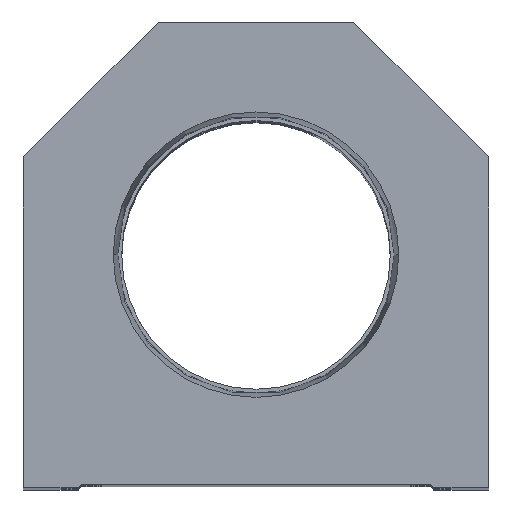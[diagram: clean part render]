
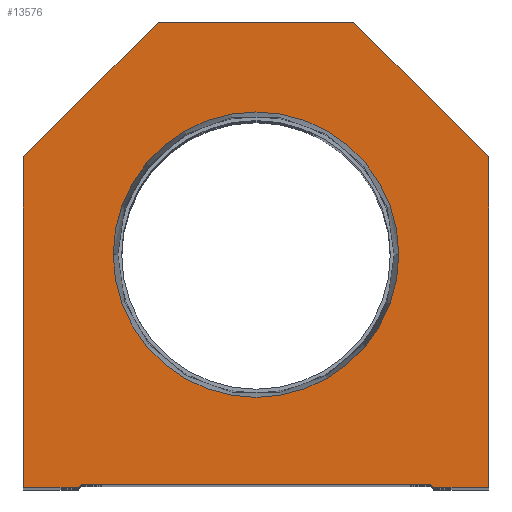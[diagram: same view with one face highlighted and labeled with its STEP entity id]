
A CAD part, top view. The second image highlights one B-rep face of the part: STEP entity #13576.
In plain terms, the highlighted planar face has unit normal (0, 0, 1).
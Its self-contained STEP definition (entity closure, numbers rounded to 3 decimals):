
#107 = VERTEX_POINT ( 'NONE', #14937 ) ;
#135 = CARTESIAN_POINT ( 'NONE',  ( 16., 76.2, 0. ) ) ;
#332 = ORIENTED_EDGE ( 'NONE', *, *, #12423, .T. ) ;
#455 = ORIENTED_EDGE ( 'NONE', *, *, #15391, .T. ) ;
#509 = EDGE_CURVE ( 'NONE', #12624, #107, #3322, .T. ) ;
#614 = ORIENTED_EDGE ( 'NONE', *, *, #2855, .T. ) ;
#625 = AXIS2_PLACEMENT_3D ( 'NONE', #11819, #5143, #6617 ) ;
#759 = ORIENTED_EDGE ( 'NONE', *, *, #15924, .F. ) ;
#1174 = CARTESIAN_POINT ( 'NONE',  ( 14.55, 14.55, 0. ) ) ;
#1328 = LINE ( 'NONE', #12826, #1855 ) ;
#1758 = VECTOR ( 'NONE', #3986, 1000. ) ;
#1797 = VERTEX_POINT ( 'NONE', #3486 ) ;
#1855 = VECTOR ( 'NONE', #3117, 1000. ) ;
#2054 = CARTESIAN_POINT ( 'NONE',  ( 16., 76.2, 0. ) ) ;
#2270 = DIRECTION ( 'NONE',  ( 0., 0., 1. ) ) ;
#2345 = VERTEX_POINT ( 'NONE', #5179 ) ;
#2855 = EDGE_CURVE ( 'NONE', #2345, #13954, #20015, .T. ) ;
#3058 = CIRCLE ( 'NONE', #8430, 23.374 ) ;
#3063 = CARTESIAN_POINT ( 'NONE',  ( 29.1, 0., 0. ) ) ;
#3117 = DIRECTION ( 'NONE',  ( 1., 0., 0. ) ) ;
#3322 = CIRCLE ( 'NONE', #625, 23.374 ) ;
#3486 = CARTESIAN_POINT ( 'NONE',  ( -28.6, 0.5, 0. ) ) ;
#3718 = LINE ( 'NONE', #16904, #9315 ) ;
#3721 = ORIENTED_EDGE ( 'NONE', *, *, #509, .F. ) ;
#3792 = CARTESIAN_POINT ( 'NONE',  ( -38.1, 54.1, 0. ) ) ;
#3804 = ORIENTED_EDGE ( 'NONE', *, *, #18390, .T. ) ;
#3883 = CARTESIAN_POINT ( 'NONE',  ( 38.1, 54.1, 0. ) ) ;
#3957 = FACE_OUTER_BOUND ( 'NONE', #15301, .T. ) ;
#3986 = DIRECTION ( 'NONE',  ( -0.707, -0.707, 0. ) ) ;
#4049 = CARTESIAN_POINT ( 'NONE',  ( -28.6, 0., 0. ) ) ;
#4568 = EDGE_CURVE ( 'NONE', #13226, #7840, #10946, .T. ) ;
#4696 = CARTESIAN_POINT ( 'NONE',  ( 38.1, 54.1, 0. ) ) ;
#5060 = EDGE_CURVE ( 'NONE', #7465, #2345, #13594, .T. ) ;
#5143 = DIRECTION ( 'NONE',  ( 0., 0., 1. ) ) ;
#5165 = DIRECTION ( 'NONE',  ( 0.707, 0.707, 0. ) ) ;
#5179 = CARTESIAN_POINT ( 'NONE',  ( -38.1, 54.1, 0. ) ) ;
#5237 = ORIENTED_EDGE ( 'NONE', *, *, #12833, .T. ) ;
#5372 = CARTESIAN_POINT ( 'NONE',  ( -28.6, 0.5, 0. ) ) ;
#5794 = CARTESIAN_POINT ( 'NONE',  ( 28.6, 0.5, 0. ) ) ;
#5951 = VECTOR ( 'NONE', #12050, 1000. ) ;
#6386 = CARTESIAN_POINT ( 'NONE',  ( 38.1, 0., 0. ) ) ;
#6464 = CARTESIAN_POINT ( 'NONE',  ( -16., 76.2, 0. ) ) ;
#6617 = DIRECTION ( 'NONE',  ( 1., 0., 0. ) ) ;
#7174 = ORIENTED_EDGE ( 'NONE', *, *, #20609, .T. ) ;
#7465 = VERTEX_POINT ( 'NONE', #6464 ) ;
#7840 = VERTEX_POINT ( 'NONE', #135 ) ;
#8430 = AXIS2_PLACEMENT_3D ( 'NONE', #20778, #9465, #19161 ) ;
#8685 = CARTESIAN_POINT ( 'NONE',  ( 38.1, 0., 0. ) ) ;
#8732 = AXIS2_PLACEMENT_3D ( 'NONE', #10391, #2270, #10083 ) ;
#8802 = FACE_BOUND ( 'NONE', #16476, .T. ) ;
#8997 = DIRECTION ( 'NONE',  ( 1., 0., 0. ) ) ;
#9312 = LINE ( 'NONE', #4049, #11737 ) ;
#9315 = VECTOR ( 'NONE', #5165, 1000. ) ;
#9465 = DIRECTION ( 'NONE',  ( 0., 0., 1. ) ) ;
#9941 = CARTESIAN_POINT ( 'NONE',  ( -38.1, 0., 0. ) ) ;
#10054 = VECTOR ( 'NONE', #17836, 1000. ) ;
#10083 = DIRECTION ( 'NONE',  ( 1., 0., 0. ) ) ;
#10257 = LINE ( 'NONE', #5372, #5951 ) ;
#10391 = CARTESIAN_POINT ( 'NONE',  ( 0., 0., 0. ) ) ;
#10510 = VECTOR ( 'NONE', #16397, 1000. ) ;
#10662 = VERTEX_POINT ( 'NONE', #15219 ) ;
#10946 = LINE ( 'NONE', #4696, #10510 ) ;
#11511 = EDGE_CURVE ( 'NONE', #14703, #18819, #15633, .T. ) ;
#11737 = VECTOR ( 'NONE', #8997, 1000. ) ;
#11819 = CARTESIAN_POINT ( 'NONE',  ( 0., 38.1, 0. ) ) ;
#12050 = DIRECTION ( 'NONE',  ( 1., 0., 0. ) ) ;
#12070 = LINE ( 'NONE', #8685, #20019 ) ;
#12423 = EDGE_CURVE ( 'NONE', #1797, #14703, #10257, .T. ) ;
#12624 = VERTEX_POINT ( 'NONE', #19806 ) ;
#12826 = CARTESIAN_POINT ( 'NONE',  ( 28.6, 0., 0. ) ) ;
#12833 = EDGE_CURVE ( 'NONE', #13954, #10662, #9312, .T. ) ;
#13019 = VERTEX_POINT ( 'NONE', #6386 ) ;
#13226 = VERTEX_POINT ( 'NONE', #3883 ) ;
#13490 = VECTOR ( 'NONE', #16822, 1000. ) ;
#13576 = ADVANCED_FACE ( 'NONE', ( #8802, #3957 ), #19678, .T. ) ;
#13594 = LINE ( 'NONE', #3792, #1758 ) ;
#13954 = VERTEX_POINT ( 'NONE', #9941 ) ;
#14353 = ORIENTED_EDGE ( 'NONE', *, *, #5060, .T. ) ;
#14703 = VERTEX_POINT ( 'NONE', #5794 ) ;
#14937 = CARTESIAN_POINT ( 'NONE',  ( -23.374, 38.1, 0. ) ) ;
#15219 = CARTESIAN_POINT ( 'NONE',  ( -29.1, 0., 0. ) ) ;
#15301 = EDGE_LOOP ( 'NONE', ( #5237, #7174, #332, #18907, #17895, #3804, #18381, #455, #14353, #614 ) ) ;
#15391 = EDGE_CURVE ( 'NONE', #7840, #7465, #16512, .T. ) ;
#15633 = LINE ( 'NONE', #1174, #10054 ) ;
#15924 = EDGE_CURVE ( 'NONE', #107, #12624, #3058, .T. ) ;
#16397 = DIRECTION ( 'NONE',  ( -0.707, 0.707, 0. ) ) ;
#16476 = EDGE_LOOP ( 'NONE', ( #3721, #759 ) ) ;
#16507 = VECTOR ( 'NONE', #18644, 1000. ) ;
#16512 = LINE ( 'NONE', #2054, #13490 ) ;
#16822 = DIRECTION ( 'NONE',  ( -1., 0., 0. ) ) ;
#16904 = CARTESIAN_POINT ( 'NONE',  ( -14.55, 14.55, 0. ) ) ;
#17836 = DIRECTION ( 'NONE',  ( 0.707, -0.707, 0. ) ) ;
#17895 = ORIENTED_EDGE ( 'NONE', *, *, #19260, .T. ) ;
#18199 = DIRECTION ( 'NONE',  ( 0., 1., 0. ) ) ;
#18381 = ORIENTED_EDGE ( 'NONE', *, *, #4568, .T. ) ;
#18390 = EDGE_CURVE ( 'NONE', #13019, #13226, #12070, .T. ) ;
#18644 = DIRECTION ( 'NONE',  ( 0., -1., 0. ) ) ;
#18819 = VERTEX_POINT ( 'NONE', #3063 ) ;
#18907 = ORIENTED_EDGE ( 'NONE', *, *, #11511, .T. ) ;
#19161 = DIRECTION ( 'NONE',  ( 1., 0., 0. ) ) ;
#19260 = EDGE_CURVE ( 'NONE', #18819, #13019, #1328, .T. ) ;
#19678 = PLANE ( 'NONE',  #8732 ) ;
#19803 = CARTESIAN_POINT ( 'NONE',  ( -38.1, 0., 0. ) ) ;
#19806 = CARTESIAN_POINT ( 'NONE',  ( 23.374, 38.1, 0. ) ) ;
#20015 = LINE ( 'NONE', #19803, #16507 ) ;
#20019 = VECTOR ( 'NONE', #18199, 1000. ) ;
#20609 = EDGE_CURVE ( 'NONE', #10662, #1797, #3718, .T. ) ;
#20778 = CARTESIAN_POINT ( 'NONE',  ( 0., 38.1, 0. ) ) ;
